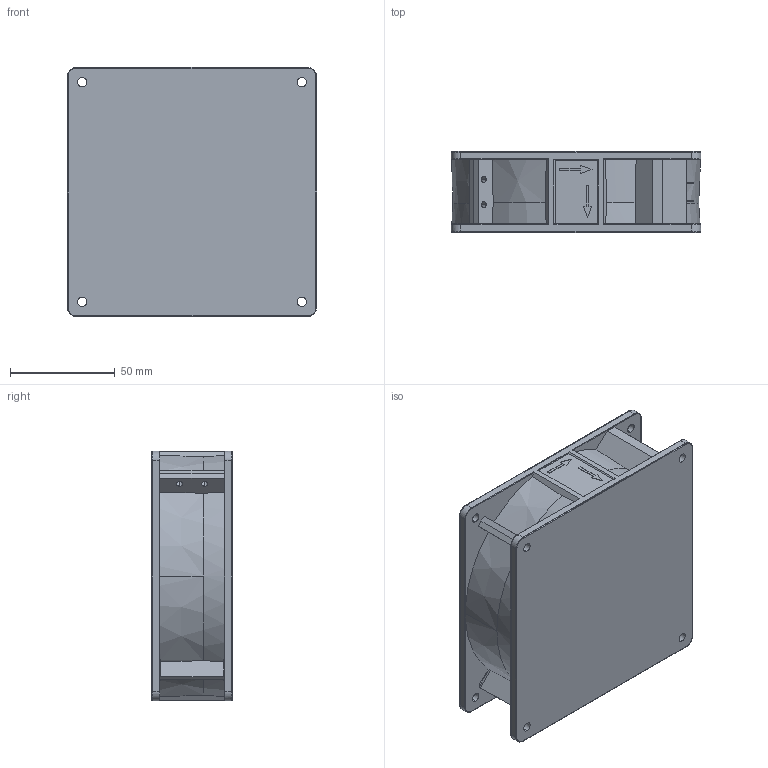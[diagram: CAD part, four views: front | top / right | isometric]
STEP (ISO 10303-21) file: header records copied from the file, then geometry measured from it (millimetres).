
FILE_DESCRIPTION (( 'STEP AP214' ), '1' );
FILE_NAME ('A12BxxHTBW.STEP', '2023-11-03T12:45:21', ( '' ), ( '' ), 'SwSTEP 2.0', 'SolidWorks 2022', '' );
FILE_SCHEMA (( 'AUTOMOTIVE_DESIGN' ));
Length unit declared in the file: millimetre
Products named in the file (1): A12BxxHTBW
Bounding box: 119 x 38.6 x 119 mm (x, y, z)
Volume: 460331.4 mm3; surface area: 52321.5 mm2
Topology: 1 solids, 1 shells, 198 faces, 547 edges, 357 vertices
Faces by surface type: plane 93, cylinder 66, cone 21, bspline 16, torus 2
Entity records: 7488 total; most frequent: CARTESIAN_POINT 2424, ORIENTED_EDGE 1094, DIRECTION 917, EDGE_CURVE 547, VERTEX_POINT 357, AXIS2_PLACEMENT_3D 314, LINE 289, VECTOR 289
